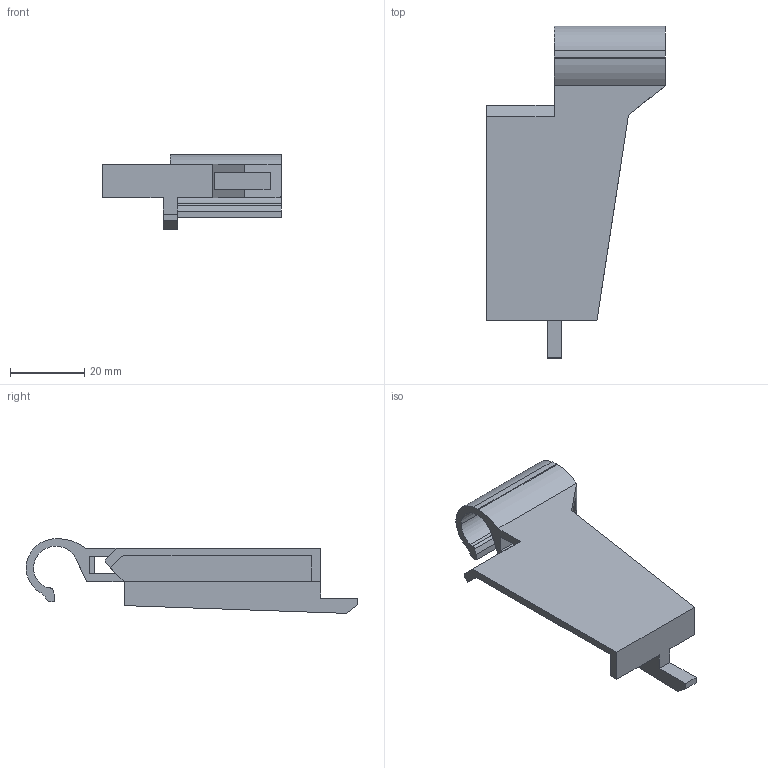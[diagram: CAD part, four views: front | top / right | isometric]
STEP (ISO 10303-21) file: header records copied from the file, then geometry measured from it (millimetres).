
FILE_DESCRIPTION (( 'STEP AP214' ), '1' );
FILE_NAME ('_Variowing Glashalter hinten li.step', '2010-07-14T13:34:02', ( 'grass' ), ( '' ), 'SwSTEP 2.0', 'SolidWorks 2010', '' );
FILE_SCHEMA (( 'AUTOMOTIVE_DESIGN' ));
Length unit declared in the file: millimetre
Products named in the file (1): _Variowing Glashalter hinten li
Bounding box: 48.2 x 89.55 x 20.16 mm (x, y, z)
Volume: 12635.7 mm3; surface area: 11287.6 mm2
Topology: 1 solids, 1 shells, 47 faces, 139 edges, 92 vertices
Faces by surface type: plane 34, cylinder 13
Entity records: 1601 total; most frequent: CARTESIAN_POINT 279, ORIENTED_EDGE 278, DIRECTION 261, EDGE_CURVE 139, LINE 113, VECTOR 113, VERTEX_POINT 92, AXIS2_PLACEMENT_3D 74
